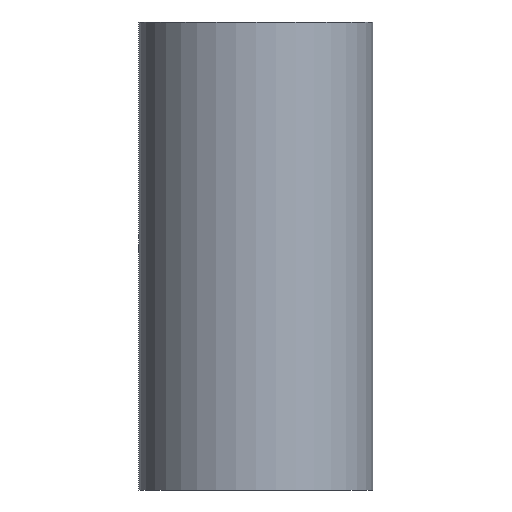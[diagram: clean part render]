
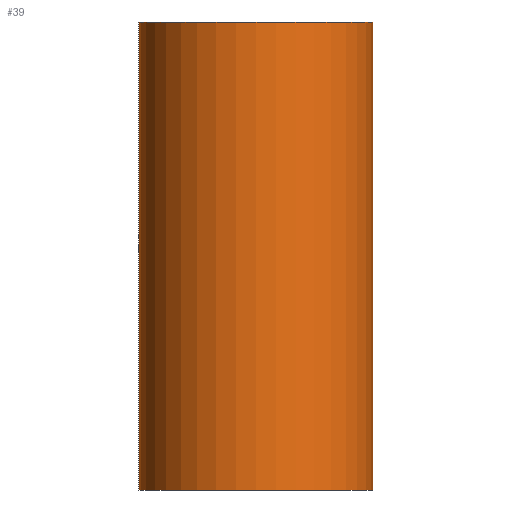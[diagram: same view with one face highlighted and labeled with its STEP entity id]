
A CAD part, front view. The second image highlights one B-rep face of the part: STEP entity #39.
In plain terms, the highlighted cylindrical face has radius 5 mm (diameter 10 mm), a full revolution.
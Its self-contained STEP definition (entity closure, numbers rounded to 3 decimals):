
#39 = ADVANCED_FACE('',(#40),#54,.T.);
#40 = FACE_BOUND('',#41,.F.);
#41 = EDGE_LOOP('',(#42,#72,#99,#100));
#42 = ORIENTED_EDGE('',*,*,#43,.T.);
#43 = EDGE_CURVE('',#44,#46,#48,.T.);
#44 = VERTEX_POINT('',#45);
#45 = CARTESIAN_POINT('',(5.,0.,0.));
#46 = VERTEX_POINT('',#47);
#47 = CARTESIAN_POINT('',(5.,0.,20.));
#48 = SEAM_CURVE('',#49,(#53,#65),.PCURVE_S1.);
#49 = LINE('',#50,#51);
#50 = CARTESIAN_POINT('',(5.,0.,0.));
#51 = VECTOR('',#52,1.);
#52 = DIRECTION('',(0.,0.,1.));
#53 = PCURVE('',#54,#59);
#54 = CYLINDRICAL_SURFACE('',#55,5.);
#55 = AXIS2_PLACEMENT_3D('',#56,#57,#58);
#56 = CARTESIAN_POINT('',(0.,0.,0.));
#57 = DIRECTION('',(-0.,-0.,-1.));
#58 = DIRECTION('',(1.,0.,0.));
#59 = DEFINITIONAL_REPRESENTATION('',(#60),#64);
#60 = LINE('',#61,#62);
#61 = CARTESIAN_POINT('',(-0.,0.));
#62 = VECTOR('',#63,1.);
#63 = DIRECTION('',(-0.,-1.));
#64 = ( GEOMETRIC_REPRESENTATION_CONTEXT(2) 
PARAMETRIC_REPRESENTATION_CONTEXT() REPRESENTATION_CONTEXT('2D SPACE',''
  ) );
#65 = PCURVE('',#54,#66);
#66 = DEFINITIONAL_REPRESENTATION('',(#67),#71);
#67 = LINE('',#68,#69);
#68 = CARTESIAN_POINT('',(-6.283,0.));
#69 = VECTOR('',#70,1.);
#70 = DIRECTION('',(-0.,-1.));
#71 = ( GEOMETRIC_REPRESENTATION_CONTEXT(2) 
PARAMETRIC_REPRESENTATION_CONTEXT() REPRESENTATION_CONTEXT('2D SPACE',''
  ) );
#72 = ORIENTED_EDGE('',*,*,#73,.T.);
#73 = EDGE_CURVE('',#46,#46,#74,.T.);
#74 = SURFACE_CURVE('',#75,(#80,#87),.PCURVE_S1.);
#75 = CIRCLE('',#76,5.);
#76 = AXIS2_PLACEMENT_3D('',#77,#78,#79);
#77 = CARTESIAN_POINT('',(0.,0.,20.));
#78 = DIRECTION('',(0.,0.,1.));
#79 = DIRECTION('',(1.,0.,0.));
#80 = PCURVE('',#54,#81);
#81 = DEFINITIONAL_REPRESENTATION('',(#82),#86);
#82 = LINE('',#83,#84);
#83 = CARTESIAN_POINT('',(-0.,-20.));
#84 = VECTOR('',#85,1.);
#85 = DIRECTION('',(-1.,0.));
#86 = ( GEOMETRIC_REPRESENTATION_CONTEXT(2) 
PARAMETRIC_REPRESENTATION_CONTEXT() REPRESENTATION_CONTEXT('2D SPACE',''
  ) );
#87 = PCURVE('',#88,#93);
#88 = PLANE('',#89);
#89 = AXIS2_PLACEMENT_3D('',#90,#91,#92);
#90 = CARTESIAN_POINT('',(0.,0.,20.));
#91 = DIRECTION('',(0.,0.,1.));
#92 = DIRECTION('',(1.,0.,-0.));
#93 = DEFINITIONAL_REPRESENTATION('',(#94),#98);
#94 = CIRCLE('',#95,5.);
#95 = AXIS2_PLACEMENT_2D('',#96,#97);
#96 = CARTESIAN_POINT('',(0.,0.));
#97 = DIRECTION('',(1.,0.));
#98 = ( GEOMETRIC_REPRESENTATION_CONTEXT(2) 
PARAMETRIC_REPRESENTATION_CONTEXT() REPRESENTATION_CONTEXT('2D SPACE',''
  ) );
#99 = ORIENTED_EDGE('',*,*,#43,.F.);
#100 = ORIENTED_EDGE('',*,*,#101,.F.);
#101 = EDGE_CURVE('',#44,#44,#102,.T.);
#102 = SURFACE_CURVE('',#103,(#108,#115),.PCURVE_S1.);
#103 = CIRCLE('',#104,5.);
#104 = AXIS2_PLACEMENT_3D('',#105,#106,#107);
#105 = CARTESIAN_POINT('',(0.,0.,0.));
#106 = DIRECTION('',(0.,0.,1.));
#107 = DIRECTION('',(1.,0.,0.));
#108 = PCURVE('',#54,#109);
#109 = DEFINITIONAL_REPRESENTATION('',(#110),#114);
#110 = LINE('',#111,#112);
#111 = CARTESIAN_POINT('',(-0.,0.));
#112 = VECTOR('',#113,1.);
#113 = DIRECTION('',(-1.,0.));
#114 = ( GEOMETRIC_REPRESENTATION_CONTEXT(2) 
PARAMETRIC_REPRESENTATION_CONTEXT() REPRESENTATION_CONTEXT('2D SPACE',''
  ) );
#115 = PCURVE('',#116,#121);
#116 = PLANE('',#117);
#117 = AXIS2_PLACEMENT_3D('',#118,#119,#120);
#118 = CARTESIAN_POINT('',(0.,0.,0.));
#119 = DIRECTION('',(0.,0.,1.));
#120 = DIRECTION('',(1.,0.,-0.));
#121 = DEFINITIONAL_REPRESENTATION('',(#122),#126);
#122 = CIRCLE('',#123,5.);
#123 = AXIS2_PLACEMENT_2D('',#124,#125);
#124 = CARTESIAN_POINT('',(0.,0.));
#125 = DIRECTION('',(1.,0.));
#126 = ( GEOMETRIC_REPRESENTATION_CONTEXT(2) 
PARAMETRIC_REPRESENTATION_CONTEXT() REPRESENTATION_CONTEXT('2D SPACE',''
  ) );
